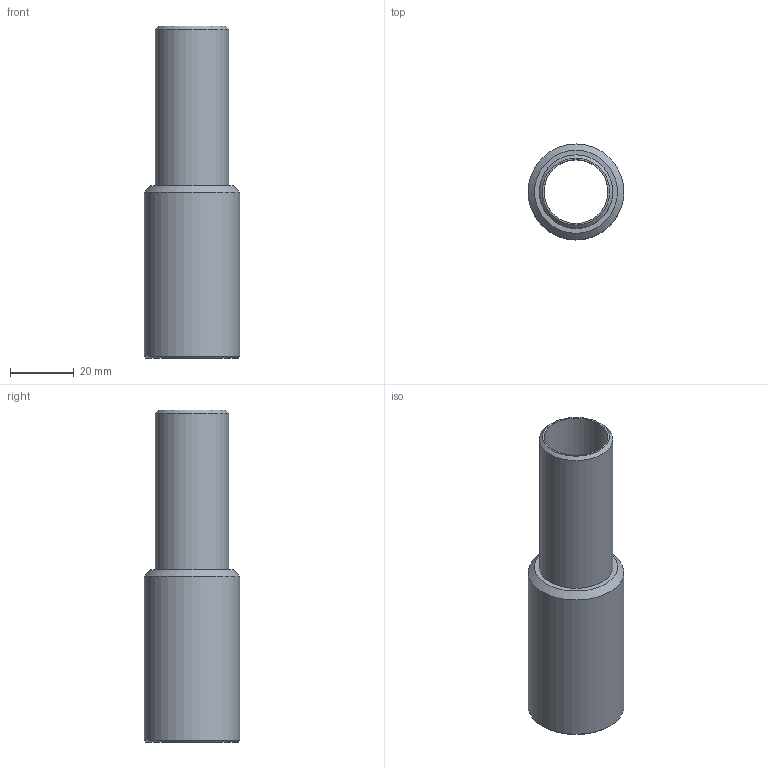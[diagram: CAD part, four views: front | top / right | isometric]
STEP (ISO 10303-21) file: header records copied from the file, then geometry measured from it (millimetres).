
FILE_DESCRIPTION(('FreeCAD Model'),'2;1');
FILE_NAME('Open CASCADE Shape Model','2024-05-27T19:53:46',(''),(''), 'Open CASCADE STEP processor 7.6','FreeCAD','Unknown');
FILE_SCHEMA(('AUTOMOTIVE_DESIGN { 1 0 10303 214 1 1 1 1 }'));
Length unit declared in the file: millimetre
Products named in the file (1): Körper
Bounding box: 30 x 30 x 104 mm (x, y, z)
Volume: 20404.6 mm3; surface area: 16279.5 mm2
Topology: 1 solids, 1 shells, 13 faces, 22 edges, 13 vertices
Faces by surface type: cone 5, cylinder 4, plane 4
Full cylindrical faces by diameter (mm): 20 x1, 23 x1, 23.1 x1, 30 x1
Entity records: 335 total; most frequent: DIRECTION 63, CARTESIAN_POINT 49, ORIENTED_EDGE 44, AXIS2_PLACEMENT_3D 27, EDGE_CURVE 22, FACE_BOUND 17, EDGE_LOOP 17, ADVANCED_FACE 13
